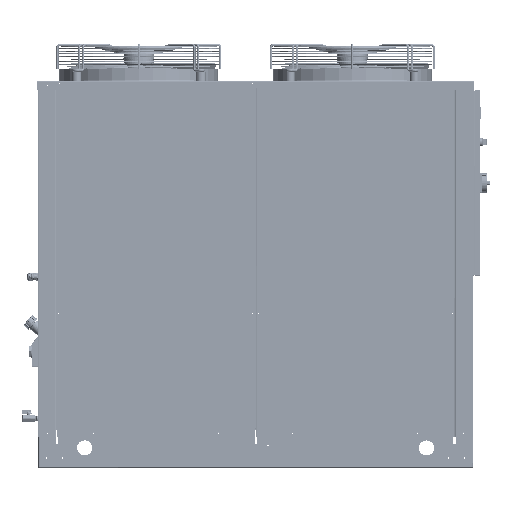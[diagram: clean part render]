
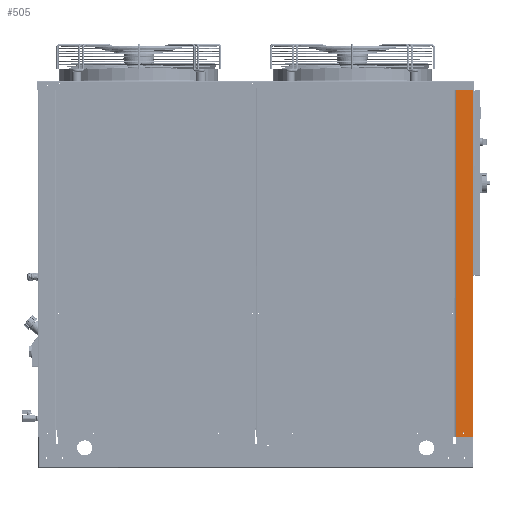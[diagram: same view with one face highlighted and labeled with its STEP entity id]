
A CAD part, top view. The second image highlights one B-rep face of the part: STEP entity #505.
In plain terms, the highlighted planar face has unit normal (0, 0, 1).
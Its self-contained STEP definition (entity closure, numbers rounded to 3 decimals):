
#505 = ADVANCED_FACE ( 'NONE', ( #12061, #6361, #261356 ), #315632, .T. ) ;
#1713 = LINE ( 'NONE', #230669, #564423 ) ;
#6361 = FACE_BOUND ( 'NONE', #350025, .T. ) ;
#12061 = FACE_BOUND ( 'NONE', #251605, .T. ) ;
#20705 = DIRECTION ( 'NONE',  ( 0., 1., 0. ) ) ;
#22311 = DIRECTION ( 'NONE',  ( -1., 0., 0. ) ) ;
#24528 = AXIS2_PLACEMENT_3D ( 'NONE', #352882, #55079, #138130 ) ;
#42172 = VERTEX_POINT ( 'NONE', #134936 ) ;
#43593 = ORIENTED_EDGE ( 'NONE', *, *, #536070, .F. ) ;
#45478 = DIRECTION ( 'NONE',  ( 1., 0., 0. ) ) ;
#48176 = CARTESIAN_POINT ( 'NONE',  ( -563.996, 32., 112. ) ) ;
#52398 = LINE ( 'NONE', #450369, #386007 ) ;
#55079 = DIRECTION ( 'NONE',  ( 0., 0., 1. ) ) ;
#61783 = CARTESIAN_POINT ( 'NONE',  ( 567.484, 32., 112. ) ) ;
#62881 = CARTESIAN_POINT ( 'NONE',  ( 559.516, 32., 112. ) ) ;
#64863 = VERTEX_POINT ( 'NONE', #397346 ) ;
#65340 = LINE ( 'NONE', #153992, #234956 ) ;
#67126 = DIRECTION ( 'NONE',  ( 0., -1., 0. ) ) ;
#80741 = VECTOR ( 'NONE', #332808, 1000. ) ;
#87864 = DIRECTION ( 'NONE',  ( 0., 0., 1. ) ) ;
#89010 = CARTESIAN_POINT ( 'NONE',  ( 576.5, 2.4, 112. ) ) ;
#92856 = ORIENTED_EDGE ( 'NONE', *, *, #122075, .F. ) ;
#104294 = CARTESIAN_POINT ( 'NONE',  ( 561.508, 28.55, 112. ) ) ;
#114013 = CARTESIAN_POINT ( 'NONE',  ( 567.484, 32., 112. ) ) ;
#122075 = EDGE_CURVE ( 'NONE', #245209, #42172, #263706, .T. ) ;
#123672 = ORIENTED_EDGE ( 'NONE', *, *, #192582, .F. ) ;
#134936 = CARTESIAN_POINT ( 'NONE',  ( -560.996, 32., 112. ) ) ;
#136279 = DIRECTION ( 'NONE',  ( -0.5, -0.866, 0. ) ) ;
#136392 = DIRECTION ( 'NONE',  ( 1., 0., 0. ) ) ;
#138130 = DIRECTION ( 'NONE',  ( 0., -1., 0. ) ) ;
#140488 = ORIENTED_EDGE ( 'NONE', *, *, #318979, .T. ) ;
#143689 = EDGE_CURVE ( 'NONE', #378214, #205660, #279351, .T. ) ;
#153992 = CARTESIAN_POINT ( 'NONE',  ( 576.5, 56.6, 112. ) ) ;
#155318 = LINE ( 'NONE', #329983, #80741 ) ;
#175840 = ORIENTED_EDGE ( 'NONE', *, *, #338568, .F. ) ;
#177725 = VERTEX_POINT ( 'NONE', #307293 ) ;
#178549 = CARTESIAN_POINT ( 'NONE',  ( 561.508, 35.45, 112. ) ) ;
#180286 = VERTEX_POINT ( 'NONE', #446069 ) ;
#188344 = DIRECTION ( 'NONE',  ( 0., 0., 1. ) ) ;
#192582 = EDGE_CURVE ( 'NONE', #380747, #177725, #460959, .T. ) ;
#198794 = ORIENTED_EDGE ( 'NONE', *, *, #442271, .F. ) ;
#201597 = LINE ( 'NONE', #370637, #301799 ) ;
#201801 = VERTEX_POINT ( 'NONE', #457792 ) ;
#205660 = VERTEX_POINT ( 'NONE', #234604 ) ;
#205967 = DIRECTION ( 'NONE',  ( 0.5, -0.866, 0. ) ) ;
#227167 = EDGE_CURVE ( 'NONE', #201801, #180286, #65340, .T. ) ;
#227555 = EDGE_CURVE ( 'NONE', #461462, #380747, #1713, .T. ) ;
#230669 = CARTESIAN_POINT ( 'NONE',  ( 561.508, 35.45, 112. ) ) ;
#234604 = CARTESIAN_POINT ( 'NONE',  ( 565.492, 35.45, 112. ) ) ;
#234956 = VECTOR ( 'NONE', #22311, 1000. ) ;
#237097 = EDGE_CURVE ( 'NONE', #177725, #64863, #359160, .T. ) ;
#245209 = VERTEX_POINT ( 'NONE', #348058 ) ;
#251605 = EDGE_LOOP ( 'NONE', ( #254789, #463694, #123672, #294899, #175840, #352352 ) ) ;
#254789 = ORIENTED_EDGE ( 'NONE', *, *, #439257, .F. ) ;
#259426 = ORIENTED_EDGE ( 'NONE', *, *, #227167, .T. ) ;
#260187 = EDGE_CURVE ( 'NONE', #42172, #245209, #542481, .T. ) ;
#261356 = FACE_OUTER_BOUND ( 'NONE', #389683, .T. ) ;
#263706 = CIRCLE ( 'NONE', #318508, 3. ) ;
#272202 = CARTESIAN_POINT ( 'NONE',  ( 565.492, 35.45, 112. ) ) ;
#279351 = LINE ( 'NONE', #61783, #330542 ) ;
#294347 = CARTESIAN_POINT ( 'NONE',  ( -576.5, 2.4, 112. ) ) ;
#294899 = ORIENTED_EDGE ( 'NONE', *, *, #227555, .F. ) ;
#301799 = VECTOR ( 'NONE', #67126, 1000. ) ;
#307293 = CARTESIAN_POINT ( 'NONE',  ( 561.508, 28.55, 112. ) ) ;
#314374 = DIRECTION ( 'NONE',  ( 1., 0., 0. ) ) ;
#315632 = PLANE ( 'NONE',  #24528 ) ;
#318508 = AXIS2_PLACEMENT_3D ( 'NONE', #348331, #87864, #136392 ) ;
#318979 = EDGE_CURVE ( 'NONE', #458973, #477556, #434977, .T. ) ;
#329983 = CARTESIAN_POINT ( 'NONE',  ( 565.492, 28.55, 112. ) ) ;
#330542 = VECTOR ( 'NONE', #408249, 1000. ) ;
#332808 = DIRECTION ( 'NONE',  ( 0.5, 0.866, 0. ) ) ;
#338568 = EDGE_CURVE ( 'NONE', #205660, #461462, #452588, .T. ) ;
#348058 = CARTESIAN_POINT ( 'NONE',  ( -566.996, 32., 112. ) ) ;
#348331 = CARTESIAN_POINT ( 'NONE',  ( -563.996, 32., 112. ) ) ;
#350025 = EDGE_LOOP ( 'NONE', ( #425311, #92856 ) ) ;
#352352 = ORIENTED_EDGE ( 'NONE', *, *, #143689, .F. ) ;
#352882 = CARTESIAN_POINT ( 'NONE',  ( 0., 0., 112. ) ) ;
#359160 = LINE ( 'NONE', #104294, #528439 ) ;
#363776 = DIRECTION ( 'NONE',  ( -1., 0., 0. ) ) ;
#367658 = DIRECTION ( 'NONE',  ( 1., 0., 0. ) ) ;
#368710 = VECTOR ( 'NONE', #45478, 1000. ) ;
#370637 = CARTESIAN_POINT ( 'NONE',  ( 576.5, 1.2, 112. ) ) ;
#377655 = AXIS2_PLACEMENT_3D ( 'NONE', #48176, #188344, #314374 ) ;
#378214 = VERTEX_POINT ( 'NONE', #114013 ) ;
#380747 = VERTEX_POINT ( 'NONE', #62881 ) ;
#386007 = VECTOR ( 'NONE', #20705, 1000. ) ;
#389683 = EDGE_LOOP ( 'NONE', ( #198794, #259426, #43593, #140488 ) ) ;
#397346 = CARTESIAN_POINT ( 'NONE',  ( 565.492, 28.55, 112. ) ) ;
#408249 = DIRECTION ( 'NONE',  ( -0.5, 0.866, 0. ) ) ;
#425311 = ORIENTED_EDGE ( 'NONE', *, *, #260187, .F. ) ;
#427252 = VECTOR ( 'NONE', #363776, 1000. ) ;
#434977 = LINE ( 'NONE', #437791, #368710 ) ;
#437791 = CARTESIAN_POINT ( 'NONE',  ( 0., 2.4, 112. ) ) ;
#439257 = EDGE_CURVE ( 'NONE', #64863, #378214, #155318, .T. ) ;
#442271 = EDGE_CURVE ( 'NONE', #201801, #477556, #201597, .T. ) ;
#446069 = CARTESIAN_POINT ( 'NONE',  ( -576.5, 56.6, 112. ) ) ;
#450369 = CARTESIAN_POINT ( 'NONE',  ( -576.5, 59., 112. ) ) ;
#452588 = LINE ( 'NONE', #272202, #427252 ) ;
#457792 = CARTESIAN_POINT ( 'NONE',  ( 576.5, 56.6, 112. ) ) ;
#458973 = VERTEX_POINT ( 'NONE', #294347 ) ;
#460959 = LINE ( 'NONE', #463754, #476775 ) ;
#461462 = VERTEX_POINT ( 'NONE', #178549 ) ;
#463694 = ORIENTED_EDGE ( 'NONE', *, *, #237097, .F. ) ;
#463754 = CARTESIAN_POINT ( 'NONE',  ( 559.516, 32., 112. ) ) ;
#476775 = VECTOR ( 'NONE', #205967, 1000. ) ;
#477556 = VERTEX_POINT ( 'NONE', #89010 ) ;
#528439 = VECTOR ( 'NONE', #367658, 1000. ) ;
#536070 = EDGE_CURVE ( 'NONE', #458973, #180286, #52398, .T. ) ;
#542481 = CIRCLE ( 'NONE', #377655, 3. ) ;
#564423 = VECTOR ( 'NONE', #136279, 1000. ) ;
